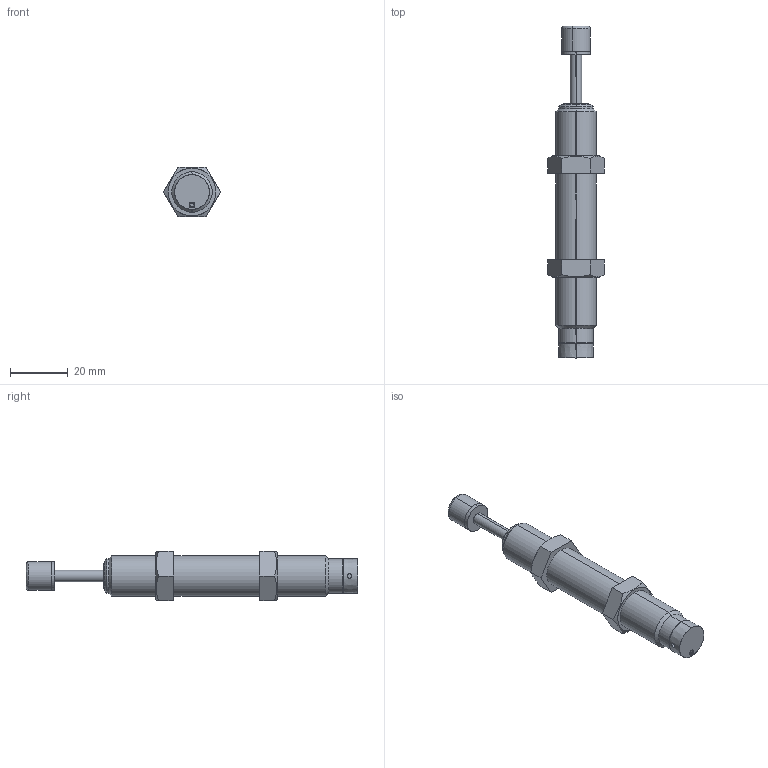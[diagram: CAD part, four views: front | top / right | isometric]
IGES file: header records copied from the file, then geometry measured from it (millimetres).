
Start section: SolidWorks IGES file using analytic representation for surfaces
Bounding box: 19.63 x 115 x 17 mm (x, y, z)
Surface area: 6346 mm2 (no closed solid volume)
Topology: 0 solids, 0 shells, 75 faces, 1150 edges, 1150 vertices
Faces by surface type: bspline 39, revolution 36
